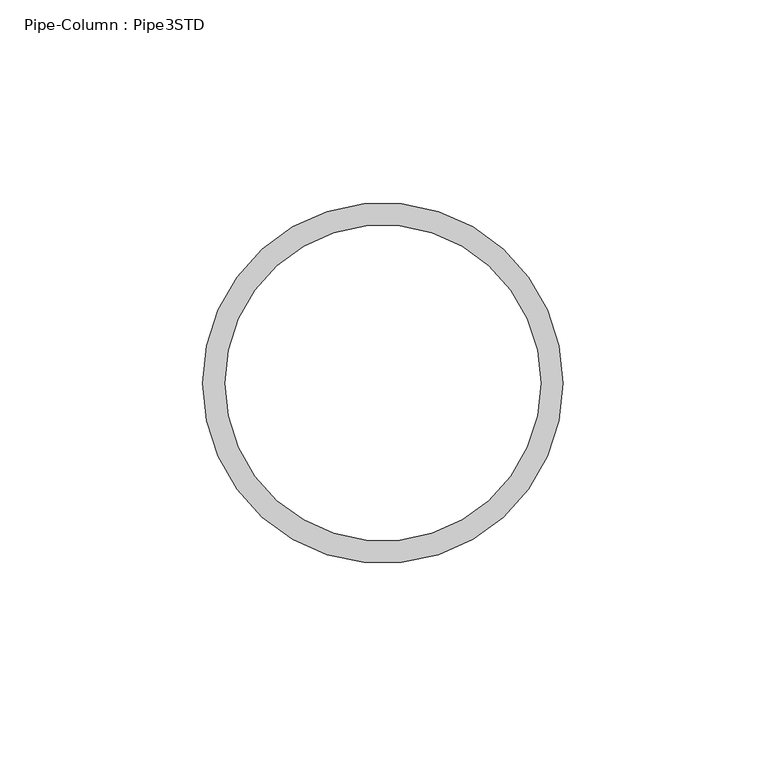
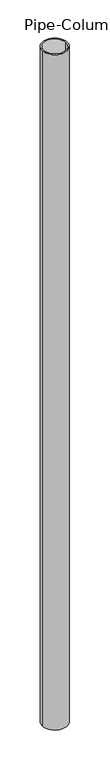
"""IFC4 building model written with IfcOpenShell, lengths in millimetres: column geometry, Pipe-Column : Pipe3STD."""

import ifcopenshell
import ifcopenshell.guid

model = None  # the IFC model being written
_history = None  # IfcOwnerHistory: only IFC2X3 demands one
_inside = {}  # id of a spatial element -> (the spatial element, [elements in it])
_under = {}  # id of a project, library or spatial element -> (it, [spatial elements below it])
_declared = {}  # id of a project -> (the project, [libraries it declares])
_typed = {}  # id of a type object -> (the type object, [elements of that type])
_made_of = {}  # id of a material, layer set ... -> (it, [elements and type objects made of it])


def new_model(schema):
    """Start an empty IFC model of exactly this schema.

    Asked for "IFC4X3", IfcOpenShell would pick the latest addendum, in which some entities
    have other attributes; the version numbers below select the first issue.
    IFC2X3 requires an IfcOwnerHistory on every rooted entity: one is made here for all.
    """
    global model, _history
    if schema == "IFC4X3":
        model = ifcopenshell.file(schema_version=(4, 3, 0, 0))
    else:
        model = ifcopenshell.file(schema=schema)
    _inside.clear()
    _under.clear()
    _declared.clear()
    _typed.clear()
    _made_of.clear()
    _history = None
    if model.schema == "IFC2X3":
        org = make("IfcOrganization", Name="unknown")
        user = make(
            "IfcPersonAndOrganization",
            ThePerson=make("IfcPerson", FamilyName="unknown"),
            TheOrganization=org,
        )
        app = make(
            "IfcApplication",
            ApplicationDeveloper=org,
            Version="unknown",
            ApplicationFullName="unknown",
            ApplicationIdentifier="unknown",
        )
        _history = make(
            "IfcOwnerHistory",
            OwningUser=user,
            OwningApplication=app,
            ChangeAction="ADDED",
            CreationDate=0,
        )
    return model


def make(cls, **values):
    """One entity of the class cls with the attributes given. An attribute that is None is left unset."""
    return model.create_entity(
        cls, **{name: value for name, value in values.items() if value is not None}
    )


def rooted(cls, **values):
    """An entity with a GlobalId (a new one), such as an element, a storey or a relation."""
    return make(cls, GlobalId=ifcopenshell.guid.new(), OwnerHistory=_history, **values)


def si_unit(unit_type, name, prefix=None):
    """IfcSIUnit, for example si_unit("LENGTHUNIT", "METRE", prefix="MILLI")."""
    return make("IfcSIUnit", UnitType=unit_type, Prefix=prefix, Name=name)


def assignment(units):
    """IfcUnitAssignment: the units of a project."""
    return None if units is None else make("IfcUnitAssignment", Units=units)


def point(xyz):
    """IfcCartesianPoint."""
    return None if xyz is None else make("IfcCartesianPoint", Coordinates=xyz)


def direction(xyz):
    """IfcDirection."""
    return None if xyz is None else make("IfcDirection", DirectionRatios=xyz)


def frame(location, z_axis=None, x_axis=None):
    """IfcAxis2Placement3D, a coordinate frame: its origin and axes. An axis left out is left unset."""
    return make(
        "IfcAxis2Placement3D",
        Location=point(location),
        Axis=direction(z_axis),
        RefDirection=direction(x_axis),
    )


def frame_2d(location, x_axis=None):
    """IfcAxis2Placement2D, a coordinate frame in the plane: its origin and x axis."""
    return make(
        "IfcAxis2Placement2D", Location=point(location), RefDirection=direction(x_axis)
    )


def origin():
    """The frame at (0, 0, 0) with its axes left unset."""
    return frame((0.0, 0.0, 0.0))


def origin_2d():
    """The frame at (0, 0) in the plane with its x axis left unset."""
    return frame_2d((0.0, 0.0))


def place(relative_to, where):
    """IfcLocalPlacement: puts the frame where relative to a parent placement (None: the world)."""
    return make(
        "IfcLocalPlacement", PlacementRelTo=relative_to, RelativePlacement=where
    )


def context(
    kind, dimensions, precision=None, world=None, true_north=None, identifier=None
):
    """IfcGeometricRepresentationContext, for example the 3D "Model" context."""
    return make(
        "IfcGeometricRepresentationContext",
        ContextIdentifier=identifier,
        ContextType=kind,
        CoordinateSpaceDimension=dimensions,
        Precision=precision,
        WorldCoordinateSystem=world,
        TrueNorth=true_north,
    )


def project(units=None, contexts=None):
    """IfcProject with its units and contexts."""
    return rooted(
        "IfcProject",
        Name="project",
        RepresentationContexts=contexts,
        UnitsInContext=assignment(units),
    )


def spatial(cls, under=None, at=None, **own):
    """A site, building, storey or space (cls), placed at a placement, below another one or the project."""
    s = rooted(cls, ObjectPlacement=at, **own)
    if under is not None:
        _under.setdefault(under.id(), (under, []))[1].append(s)
    return s


def circle_curve(where, radius):
    """IfcCircle in the frame where."""
    return make("IfcCircle", Position=where, Radius=radius)


def trimmed(basis, trim1, trim2, sense, master):
    """IfcTrimmedCurve: the piece of a basis curve between two trims."""
    return make(
        "IfcTrimmedCurve",
        BasisCurve=basis,
        Trim1=trim1,
        Trim2=trim2,
        SenseAgreement=sense,
        MasterRepresentation=master,
    )


def segment(curve, same_sense, transition):
    """IfcCompositeCurveSegment."""
    return make(
        "IfcCompositeCurveSegment",
        Transition=transition,
        SameSense=same_sense,
        ParentCurve=curve,
    )


def composite_curve(segments, self_intersect=None):
    """IfcCompositeCurve: segments joined end to end."""
    return make("IfcCompositeCurve", Segments=segments, SelfIntersect=self_intersect)


def outline(outer, holes=None, kind="AREA"):
    """IfcArbitraryClosedProfileDef: a profile drawn as a closed curve; with holes, ...WithVoids."""
    if holes is None:
        return make("IfcArbitraryClosedProfileDef", ProfileType=kind, OuterCurve=outer)
    return make(
        "IfcArbitraryProfileDefWithVoids",
        ProfileType=kind,
        OuterCurve=outer,
        InnerCurves=holes,
    )


def extrude(swept, where, along, depth):
    """IfcExtrudedAreaSolid: the profile swept, set in the frame where, extruded along a direction by depth."""
    return make(
        "IfcExtrudedAreaSolid",
        SweptArea=swept,
        Position=where,
        ExtrudedDirection=direction(along),
        Depth=depth,
    )


def shape(context_of_items, identifier, shape_type, items):
    """IfcShapeRepresentation: the items that make up one representation, for example the "Body"."""
    return make(
        "IfcShapeRepresentation",
        ContextOfItems=context_of_items,
        RepresentationIdentifier=identifier,
        RepresentationType=shape_type,
        Items=items,
    )


def source(mapping_origin, context_of_items, identifier, shape_type, items):
    """IfcRepresentationMap: a shape defined once, which mapped items show again and again."""
    return make(
        "IfcRepresentationMap",
        MappingOrigin=mapping_origin,
        MappedRepresentation=shape(context_of_items, identifier, shape_type, items),
    )


def transform(
    local_origin,
    x_axis=None,
    y_axis=None,
    z_axis=None,
    scale=None,
    scale2=None,
    scale3=None,
    uniform=True,
):
    """IfcCartesianTransformationOperator3D, or its non-uniform kind. x_axis, y_axis, z_axis: its Axis1, 2, 3."""
    if uniform:
        return make(
            "IfcCartesianTransformationOperator3D",
            Axis1=direction(x_axis),
            Axis2=direction(y_axis),
            LocalOrigin=point(local_origin),
            Scale=scale,
            Axis3=direction(z_axis),
        )
    return make(
        "IfcCartesianTransformationOperator3DnonUniform",
        Axis1=direction(x_axis),
        Axis2=direction(y_axis),
        LocalOrigin=point(local_origin),
        Scale=scale,
        Axis3=direction(z_axis),
        Scale2=scale2,
        Scale3=scale3,
    )


def mapped(mapping_source, mapping_target):
    """IfcMappedItem: shows the shape of a source again, moved by a transform."""
    return make(
        "IfcMappedItem", MappingSource=mapping_source, MappingTarget=mapping_target
    )


def made_of(thing, what):
    """Note that an element or type object is made of a material, layer set ...; save() writes the relation."""
    if what is not None:
        _made_of.setdefault(what.id(), (what, []))[1].append(thing)
    return thing


def element(
    cls,
    number,
    at=None,
    inside=None,
    cuts=None,
    type_object=None,
    material=None,
    context=None,
    identifier="Body",
    shape_type=None,
    held_by="IfcProductDefinitionShape",
    body=None,
    shapes=None,
    **own,
):
    """One element of the class cls, such as IfcWall. Its Tag is "e" and its number.

    at: its placement. inside: the storey or other place that contains it. cuts: it is an
    opening in that element (IfcRelVoidsElement). A single representation is given by context,
    identifier, shape_type and body (its items); several are given by shapes. held_by: the class
    of the entity that holds the representations. save() writes the other relations.
    """
    e = rooted(cls, Tag="e%d" % number, ObjectPlacement=at, **own)
    if body is not None:
        shapes = [shape(context, identifier, shape_type, body)]
    if shapes is not None:
        e.Representation = make(held_by, Representations=shapes)
    if inside is not None:
        _inside.setdefault(inside.id(), (inside, []))[1].append(e)
    if cuts is not None:
        rooted(
            "IfcRelVoidsElement", RelatingBuildingElement=cuts, RelatedOpeningElement=e
        )
    if type_object is not None:
        _typed.setdefault(type_object.id(), (type_object, []))[1].append(e)
    return made_of(e, material)


def aggregate(whole, parts):
    """IfcRelAggregates: a whole, such as a stair, and the parts it consists of."""
    return rooted("IfcRelAggregates", RelatingObject=whole, RelatedObjects=parts)


def save(model, path):
    """Write the relations noted so far, then the file.

    IfcRelAggregates (storeys below a building ...), IfcRelContainedInSpatialStructure (elements
    in a storey), IfcRelDefinesByType, IfcRelAssociatesMaterial and IfcRelDeclares: one each for
    every whole, place, type object, material and project.
    """
    for whole, parts in _under.values():
        aggregate(whole, parts)
    for where, things in _inside.values():
        rooted(
            "IfcRelContainedInSpatialStructure",
            RelatedElements=things,
            RelatingStructure=where,
        )
    for kind, things in _typed.values():
        rooted("IfcRelDefinesByType", RelatedObjects=things, RelatingType=kind)
    for what, things in _made_of.values():
        rooted("IfcRelAssociatesMaterial", RelatedObjects=things, RelatingMaterial=what)
    for by, libraries in _declared.values():
        rooted("IfcRelDeclares", RelatingContext=by, RelatedDefinitions=libraries)
    model.write(path)


def pipe_column_pipe3std_1d2571e4(model_context):
    return source(origin(), model_context, "Body", "SweptSolid", [
        extrude(outline(composite_curve([segment(trimmed(circle_curve(origin_2d(), 44.45), [point((-44.45, 0.0))], [point((44.45, 0.0))], False, "CARTESIAN"), True, "CONTINUOUS"), segment(trimmed(circle_curve(origin_2d(), 44.45), [point((44.45, 0.0))], [point((-44.45, 0.0))], False, "CARTESIAN"), True, "CONTINUOUS")], self_intersect=False), holes=[composite_curve([segment(trimmed(circle_curve(origin_2d(), 38.9636), [point((-38.9636, 0.0))], [point((38.9636, 0.0))], True, "CARTESIAN"), True, "CONTINUOUS"), segment(trimmed(circle_curve(origin_2d(), 38.9636), [point((38.9636, 0.0))], [point((-38.9636, 0.0))], True, "CARTESIAN"), True, "CONTINUOUS")], self_intersect=False)]), frame((0.0, 0.0, -2266.95), z_axis=(0.0, 0.0, 1.0), x_axis=(1.0, 0.0, 0.0)), (0.0, 0.0, 1.0), 2514.6),
    ])


if __name__ == "__main__":
    model = new_model("IFC4")
    model_context = context("Model", 3, world=origin())
    ifc_project = project(units=[si_unit("LENGTHUNIT", "METRE", prefix="MILLI")], contexts=[model_context])
    site = spatial("IfcSite", under=ifc_project)
    building = spatial("IfcBuilding", under=site)
    placement = place(None, origin())
    pipe_column_pipe3std_shape = pipe_column_pipe3std_1d2571e4(model_context)
    element("IfcColumn", 1, ObjectType="Pipe-Column : Pipe3STD", at=placement, inside=building, context=model_context, shape_type="MappedRepresentation", body=[
        mapped(pipe_column_pipe3std_shape, transform((0.0, 0.0, 0.0), x_axis=(1.0, 0.0, 0.0), y_axis=(0.0, 1.0, 0.0), z_axis=(0.0, 0.0, 1.0))),
    ])
    save(model, "model.ifc")
